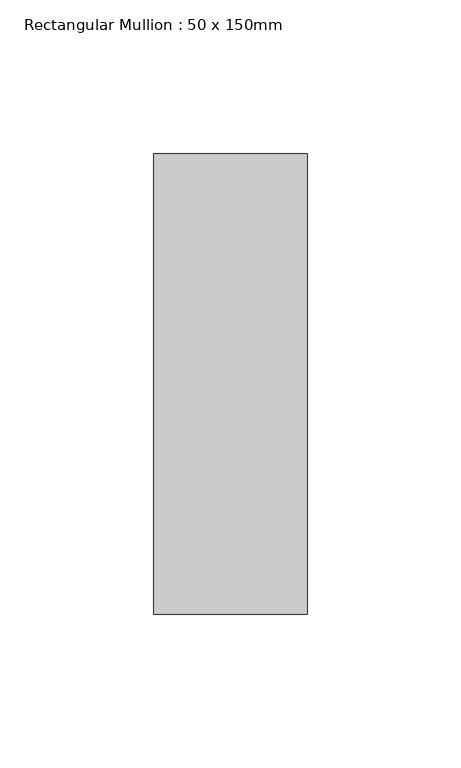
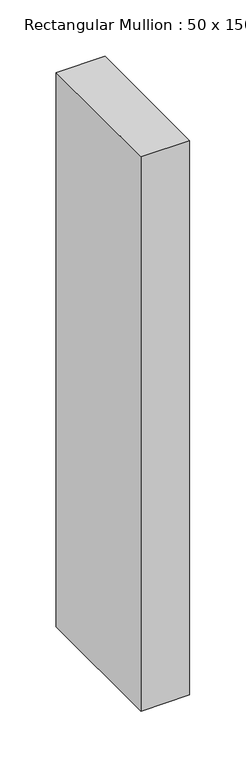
"""IFC4 building model written with IfcOpenShell, lengths in millimetres: member geometry, Rectangular Mullion : 50 x 150mm."""

from ifc_helpers import new_model, si_unit, frame, origin, place, context, project, spatial, polyline, outline, extrude, source, transform, mapped, element, save


def rectangular_mullion_50_x_150mm_6f8b8c16(model_context):
    return source(origin(), model_context, "Body", "SweptSolid", [
        extrude(outline(polyline([(0.0, 75.0), (0.0, -75.0), (-50.0, -75.0), (-50.0, 75.0), (0.0, 75.0)])), frame((0.0, 0.0, -599.9999999), z_axis=(0.0, 0.0, 1.0), x_axis=(1.0, 0.0, 0.0)), (0.0, 0.0, 1.0), 599.9999999),
    ])


if __name__ == "__main__":
    model = new_model("IFC4")
    model_context = context("Model", 3, world=origin())
    ifc_project = project(units=[si_unit("LENGTHUNIT", "METRE", prefix="MILLI")], contexts=[model_context])
    site = spatial("IfcSite", under=ifc_project)
    building = spatial("IfcBuilding", under=site)
    placement = place(None, origin())
    rectangular_mullion_50_x_150mm_shape = rectangular_mullion_50_x_150mm_6f8b8c16(model_context)
    element("IfcMember", 1, ObjectType="Rectangular Mullion : 50 x 150mm", at=placement, inside=building, context=model_context, shape_type="MappedRepresentation", body=[
        mapped(rectangular_mullion_50_x_150mm_shape, transform((0.0, 0.0, 0.0), x_axis=(1.0, 0.0, 0.0), y_axis=(0.0, 1.0, 0.0), z_axis=(0.0, 0.0, 1.0))),
    ])
    save(model, "model.ifc")
